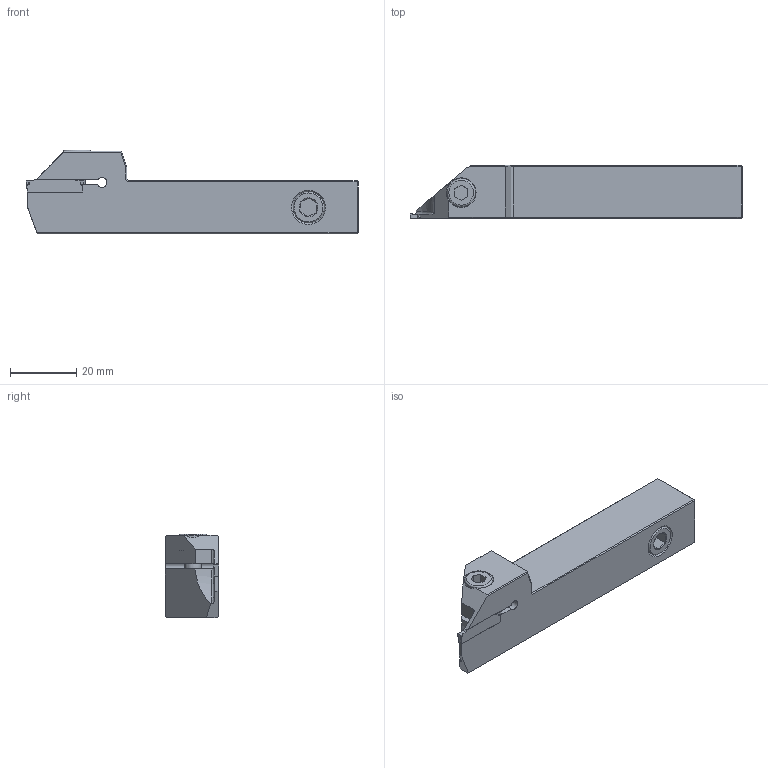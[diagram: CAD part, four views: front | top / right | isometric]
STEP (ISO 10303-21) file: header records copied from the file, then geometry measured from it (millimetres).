
FILE_DESCRIPTION(/* description */ (''),/* implementation_level */ '2;1');
FILE_NAME(/* name */ 'WEBDA_E00022649_00_Kunde.stp',/* time_stamp */ '2020-11-27T11:47:19+01:00',/* author */ (''),/* organization */ (''),/* preprocessor_version */ 'ST-DEVELOPER v16',/* originating_system */ 'SIEMENS PLM Software NX 11.0',/* authorisation */ '');
FILE_SCHEMA (('AUTOMOTIVE_DESIGN { 1 0 10303 214 3 1 1 1 }'));
Length unit declared in the file: millimetre
Products named in the file (1): ja.hE6D023ECg05y
Bounding box: 100.5 x 16.15 x 25.3 mm (x, y, z)
Volume: 23149.8 mm3; surface area: 9676 mm2
Topology: 1 solids, 2 shells, 184 faces, 495 edges, 321 vertices
Faces by surface type: plane 101, cone 37, cylinder 36, bspline 8, torus 2
Full cylindrical faces by diameter (mm): 4.2 x1, 5 x1, 5.5 x1, 6 x2, 8.5 x1, 8.6 x1, 8.8 x1, 9 x1
Entity records: 5934 total; most frequent: CARTESIAN_POINT 1604, ORIENTED_EDGE 900, DIRECTION 834, EDGE_CURVE 450, VERTEX_POINT 302, LINE 278, VECTOR 278, AXIS2_PLACEMENT_3D 278
